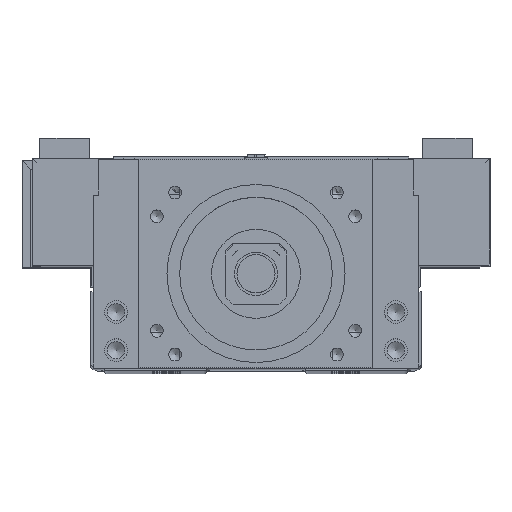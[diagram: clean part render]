
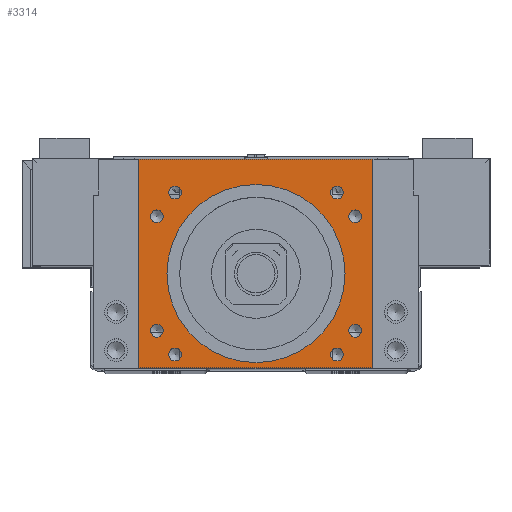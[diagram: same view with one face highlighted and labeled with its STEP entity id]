
A CAD part, top view. The second image highlights one B-rep face of the part: STEP entity #3314.
In plain terms, the highlighted planar face has unit normal (0, 0, 1).
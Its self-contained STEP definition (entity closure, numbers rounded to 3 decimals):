
#3314=ADVANCED_FACE('',(#7045,#7046,#7047,#7048,#7049,#7050,#7051,#7052,
#7053,#7054),#4987,.T.);
#4987=PLANE('',#31768);
#6440=CIRCLE('',#31758,35.015);
#6441=CIRCLE('',#31760,2.5);
#6442=CIRCLE('',#31761,2.5);
#6443=CIRCLE('',#31762,2.5);
#6444=CIRCLE('',#31763,2.5);
#6445=CIRCLE('',#31764,2.5);
#6446=CIRCLE('',#31765,2.5);
#6447=CIRCLE('',#31766,2.5);
#6448=CIRCLE('',#31767,2.5);
#7045=FACE_BOUND('',#8091,.T.);
#7046=FACE_BOUND('',#8092,.T.);
#7047=FACE_BOUND('',#8093,.T.);
#7048=FACE_BOUND('',#8094,.T.);
#7049=FACE_BOUND('',#8095,.T.);
#7050=FACE_BOUND('',#8096,.T.);
#7051=FACE_BOUND('',#8097,.T.);
#7052=FACE_BOUND('',#8098,.T.);
#7053=FACE_BOUND('',#8099,.T.);
#7054=FACE_BOUND('',#8100,.T.);
#8091=EDGE_LOOP('',(#11332,#11333,#11334,#11335));
#8092=EDGE_LOOP('',(#11336));
#8093=EDGE_LOOP('',(#11337));
#8094=EDGE_LOOP('',(#11338));
#8095=EDGE_LOOP('',(#11339));
#8096=EDGE_LOOP('',(#11340));
#8097=EDGE_LOOP('',(#11341));
#8098=EDGE_LOOP('',(#11342));
#8099=EDGE_LOOP('',(#11343));
#8100=EDGE_LOOP('',(#11344));
#11332=ORIENTED_EDGE('',*,*,#21382,.T.);
#11333=ORIENTED_EDGE('',*,*,#20668,.T.);
#11334=ORIENTED_EDGE('',*,*,#21377,.T.);
#11335=ORIENTED_EDGE('',*,*,#21387,.T.);
#11336=ORIENTED_EDGE('',*,*,#21395,.F.);
#11337=ORIENTED_EDGE('',*,*,#21396,.T.);
#11338=ORIENTED_EDGE('',*,*,#21397,.T.);
#11339=ORIENTED_EDGE('',*,*,#21398,.F.);
#11340=ORIENTED_EDGE('',*,*,#21394,.F.);
#11341=ORIENTED_EDGE('',*,*,#21399,.T.);
#11342=ORIENTED_EDGE('',*,*,#21400,.T.);
#11343=ORIENTED_EDGE('',*,*,#21401,.T.);
#11344=ORIENTED_EDGE('',*,*,#21402,.T.);
#18000=VERTEX_POINT('',#41674);
#18001=VERTEX_POINT('',#41676);
#18508=VERTEX_POINT('',#43333);
#18510=VERTEX_POINT('',#43344);
#18516=VERTEX_POINT('',#43368);
#18517=VERTEX_POINT('',#43371);
#18518=VERTEX_POINT('',#43373);
#18519=VERTEX_POINT('',#43375);
#18520=VERTEX_POINT('',#43377);
#18521=VERTEX_POINT('',#43379);
#18522=VERTEX_POINT('',#43381);
#18523=VERTEX_POINT('',#43383);
#18524=VERTEX_POINT('',#43385);
#20668=EDGE_CURVE('',#18001,#18000,#24705,.T.);
#21377=EDGE_CURVE('',#18000,#18508,#25145,.T.);
#21382=EDGE_CURVE('',#18510,#18001,#25150,.T.);
#21387=EDGE_CURVE('',#18508,#18510,#25155,.T.);
#21394=EDGE_CURVE('',#18516,#18516,#6440,.T.);
#21395=EDGE_CURVE('',#18517,#18517,#6441,.T.);
#21396=EDGE_CURVE('',#18518,#18518,#6442,.T.);
#21397=EDGE_CURVE('',#18519,#18519,#6443,.T.);
#21398=EDGE_CURVE('',#18520,#18520,#6444,.T.);
#21399=EDGE_CURVE('',#18521,#18521,#6445,.T.);
#21400=EDGE_CURVE('',#18522,#18522,#6446,.T.);
#21401=EDGE_CURVE('',#18523,#18523,#6447,.T.);
#21402=EDGE_CURVE('',#18524,#18524,#6448,.T.);
#24705=LINE('',#41675,#27953);
#25145=LINE('',#43335,#28393);
#25150=LINE('',#43343,#28398);
#25155=LINE('',#43352,#28403);
#27953=VECTOR('',#33626,1.);
#28393=VECTOR('',#35116,1.);
#28398=VECTOR('',#35127,1.);
#28403=VECTOR('',#35134,1.);
#31758=AXIS2_PLACEMENT_3D('',#43367,#35153,#35154);
#31760=AXIS2_PLACEMENT_3D('',#43370,#35157,#35158);
#31761=AXIS2_PLACEMENT_3D('',#43372,#35159,#35160);
#31762=AXIS2_PLACEMENT_3D('',#43374,#35161,#35162);
#31763=AXIS2_PLACEMENT_3D('',#43376,#35163,#35164);
#31764=AXIS2_PLACEMENT_3D('',#43378,#35165,#35166);
#31765=AXIS2_PLACEMENT_3D('',#43380,#35167,#35168);
#31766=AXIS2_PLACEMENT_3D('',#43382,#35169,#35170);
#31767=AXIS2_PLACEMENT_3D('',#43384,#35171,#35172);
#31768=AXIS2_PLACEMENT_3D('',#43386,#35173,#35174);
#33626=DIRECTION('',(-1.,0.,0.));
#35116=DIRECTION('',(0.,-1.,0.));
#35127=DIRECTION('',(0.,1.,0.));
#35134=DIRECTION('',(1.,0.,0.));
#35153=DIRECTION('',(0.,0.,1.));
#35154=DIRECTION('',(1.,0.,0.));
#35157=DIRECTION('',(0.,0.,1.));
#35158=DIRECTION('',(-1.,0.,0.));
#35159=DIRECTION('',(0.,0.,-1.));
#35160=DIRECTION('',(1.,0.,0.));
#35161=DIRECTION('',(0.,0.,-1.));
#35162=DIRECTION('',(1.,0.,0.));
#35163=DIRECTION('',(0.,0.,1.));
#35164=DIRECTION('',(-1.,0.,0.));
#35165=DIRECTION('',(0.,0.,-1.));
#35166=DIRECTION('',(1.,0.,0.));
#35167=DIRECTION('',(0.,0.,-1.));
#35168=DIRECTION('',(1.,0.,0.));
#35169=DIRECTION('',(0.,0.,-1.));
#35170=DIRECTION('',(1.,0.,0.));
#35171=DIRECTION('',(0.,0.,-1.));
#35172=DIRECTION('',(1.,0.,0.));
#35173=DIRECTION('',(0.,0.,1.));
#35174=DIRECTION('',(-1.,0.,0.));
#41674=CARTESIAN_POINT('',(-46.,83.,50.));
#41675=CARTESIAN_POINT('',(0.,83.,50.));
#41676=CARTESIAN_POINT('',(46.,83.,50.));
#43333=CARTESIAN_POINT('',(-46.,1.,50.));
#43335=CARTESIAN_POINT('',(-46.,38.,50.));
#43343=CARTESIAN_POINT('',(46.,38.,50.));
#43344=CARTESIAN_POINT('',(46.,1.,50.));
#43352=CARTESIAN_POINT('',(0.,1.,50.));
#43367=CARTESIAN_POINT('',(0.,38.,50.));
#43368=CARTESIAN_POINT('',(35.015,38.,50.));
#43370=CARTESIAN_POINT('',(-38.971,15.5,50.));
#43371=CARTESIAN_POINT('',(-41.471,15.5,50.));
#43372=CARTESIAN_POINT('',(38.971,60.5,50.));
#43373=CARTESIAN_POINT('',(41.471,60.5,50.));
#43374=CARTESIAN_POINT('',(38.971,15.5,50.));
#43375=CARTESIAN_POINT('',(41.471,15.5,50.));
#43376=CARTESIAN_POINT('',(-38.971,60.5,50.));
#43377=CARTESIAN_POINT('',(-41.471,60.5,50.));
#43378=CARTESIAN_POINT('',(-31.82,69.82,50.));
#43379=CARTESIAN_POINT('',(-29.32,69.82,50.));
#43380=CARTESIAN_POINT('',(-31.82,6.18,50.));
#43381=CARTESIAN_POINT('',(-29.32,6.18,50.));
#43382=CARTESIAN_POINT('',(31.82,6.18,50.));
#43383=CARTESIAN_POINT('',(34.32,6.18,50.));
#43384=CARTESIAN_POINT('',(31.82,69.82,50.));
#43385=CARTESIAN_POINT('',(34.32,69.82,50.));
#43386=CARTESIAN_POINT('',(0.,38.,50.));
